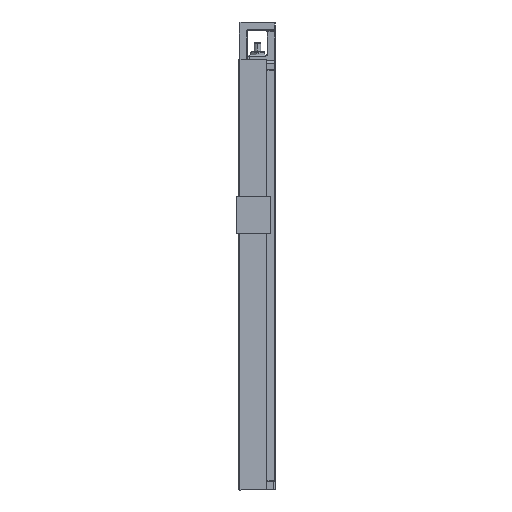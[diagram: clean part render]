
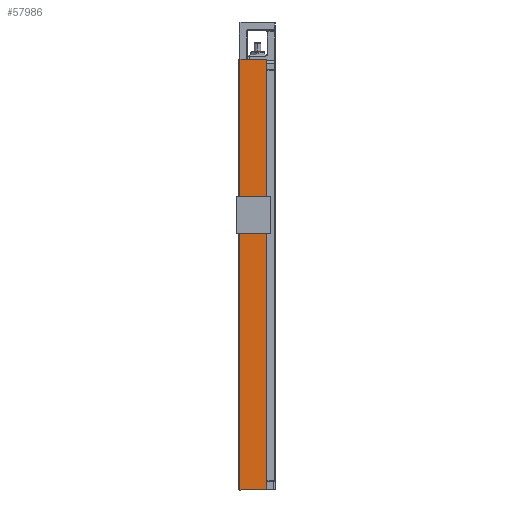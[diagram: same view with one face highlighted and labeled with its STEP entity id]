
A CAD part, left-side view. The second image highlights one B-rep face of the part: STEP entity #57986.
In plain terms, the highlighted planar face has unit normal (-1, 0, 0).
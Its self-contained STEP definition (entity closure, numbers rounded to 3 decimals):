
#510 = VECTOR ( 'NONE', #57147, 1000. ) ;
#1975 = LINE ( 'NONE', #18606, #510 ) ;
#2259 = CARTESIAN_POINT ( 'NONE',  ( -51., 11., 13.5 ) ) ;
#3376 = EDGE_LOOP ( 'NONE', ( #11262, #28708, #61458, #57368 ) ) ;
#3515 = LINE ( 'NONE', #60292, #12208 ) ;
#4534 = DIRECTION ( 'NONE',  ( -1., 0., 0. ) ) ;
#6808 = EDGE_CURVE ( 'NONE', #22318, #21415, #17902, .T. ) ;
#7659 = AXIS2_PLACEMENT_3D ( 'NONE', #23689, #4534, #38313 ) ;
#11262 = ORIENTED_EDGE ( 'NONE', *, *, #36486, .T. ) ;
#11941 = CARTESIAN_POINT ( 'NONE',  ( -51., 43.5, -511. ) ) ;
#12208 = VECTOR ( 'NONE', #21886, 1000. ) ;
#17592 = CARTESIAN_POINT ( 'NONE',  ( -51., 11., -511. ) ) ;
#17805 = FACE_OUTER_BOUND ( 'NONE', #3376, .T. ) ;
#17902 = LINE ( 'NONE', #25101, #56356 ) ;
#18606 = CARTESIAN_POINT ( 'NONE',  ( -51., 43.5, -350.8 ) ) ;
#21415 = VERTEX_POINT ( 'NONE', #2259 ) ;
#21886 = DIRECTION ( 'NONE',  ( 0., -1., 0. ) ) ;
#22318 = VERTEX_POINT ( 'NONE', #42521 ) ;
#23002 = VERTEX_POINT ( 'NONE', #11941 ) ;
#23689 = CARTESIAN_POINT ( 'NONE',  ( -51., 48., -350.8 ) ) ;
#25101 = CARTESIAN_POINT ( 'NONE',  ( -51., 44.5, 13.5 ) ) ;
#25158 = DIRECTION ( 'NONE',  ( 0., -1., 0. ) ) ;
#28708 = ORIENTED_EDGE ( 'NONE', *, *, #6808, .F. ) ;
#33492 = PLANE ( 'NONE',  #7659 ) ;
#36486 = EDGE_CURVE ( 'NONE', #46469, #21415, #41840, .T. ) ;
#38313 = DIRECTION ( 'NONE',  ( 0., 0., 1. ) ) ;
#38961 = VECTOR ( 'NONE', #50729, 1000. ) ;
#41092 = CARTESIAN_POINT ( 'NONE',  ( -51., 11., -350.8 ) ) ;
#41840 = LINE ( 'NONE', #41092, #38961 ) ;
#42521 = CARTESIAN_POINT ( 'NONE',  ( -51., 43.5, 13.5 ) ) ;
#46469 = VERTEX_POINT ( 'NONE', #17592 ) ;
#50729 = DIRECTION ( 'NONE',  ( 0., 0., 1. ) ) ;
#54319 = EDGE_CURVE ( 'NONE', #23002, #46469, #3515, .T. ) ;
#56356 = VECTOR ( 'NONE', #25158, 1000. ) ;
#57147 = DIRECTION ( 'NONE',  ( 0., 0., 1. ) ) ;
#57368 = ORIENTED_EDGE ( 'NONE', *, *, #54319, .T. ) ;
#57487 = EDGE_CURVE ( 'NONE', #23002, #22318, #1975, .T. ) ;
#57986 = ADVANCED_FACE ( 'NONE', ( #17805 ), #33492, .T. ) ;
#60292 = CARTESIAN_POINT ( 'NONE',  ( -51., 22., -511. ) ) ;
#61458 = ORIENTED_EDGE ( 'NONE', *, *, #57487, .F. ) ;
